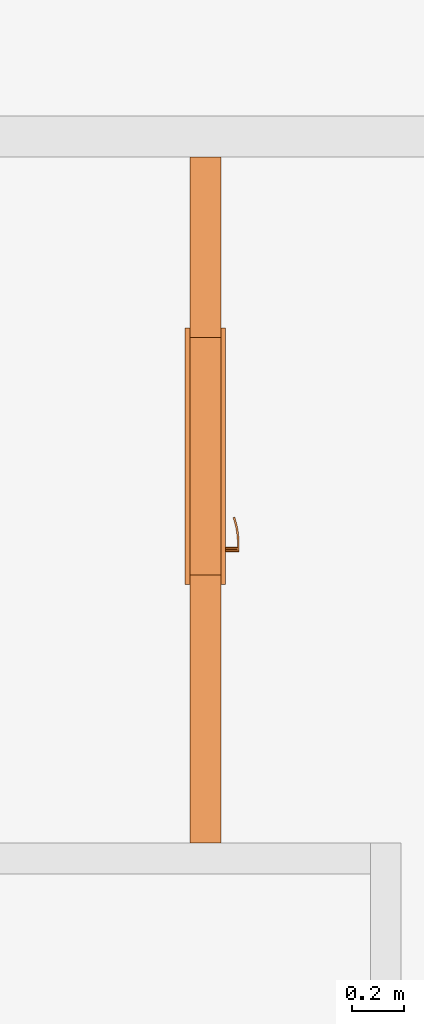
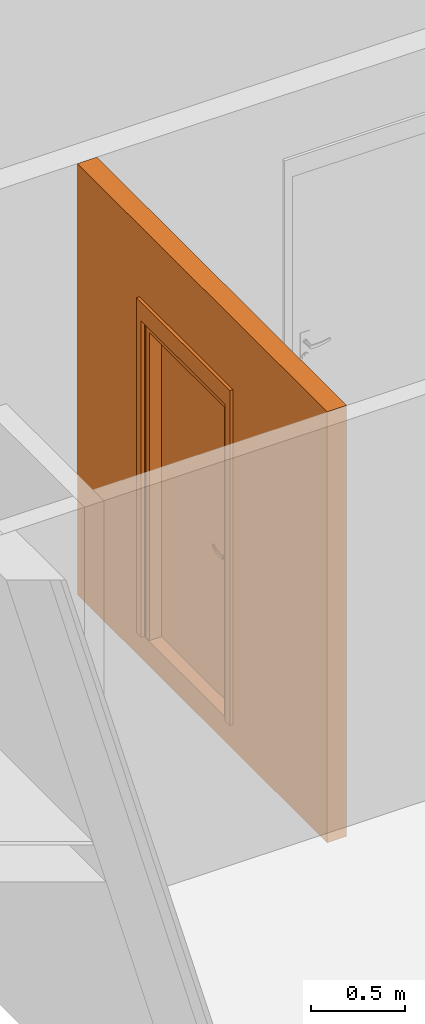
# One storey, part 31 of 67: 2 proxies, 1 opening.
"""IFC2X3 building model written with IfcOpenShell, lengths in millimetres."""

from ifc_helpers import new_model, entity, si_unit, converted_unit, derived_unit, money_unit, direction, frame, origin_with_axes, origin_2d_with_axis, place, context, subcontext, project, spatial, rectangle, extrude, open_shell, faceted_brep, surface_model, source, transform, mapped, material, type_object, element, fill, save


model = new_model("IFC2X3")

# Units and contexts
model_context = context("Model", 3, precision=0.01, world=origin_with_axes(), true_north=direction((0.34421633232, 0.938890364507)))
body_context = subcontext(model_context, "Body", "Model", "MODEL_VIEW")
ifc_project = project(units=[si_unit("LENGTHUNIT", "METRE", prefix="MILLI"), si_unit("AREAUNIT", "SQUARE_METRE"), si_unit("VOLUMEUNIT", "CUBIC_METRE"), converted_unit("PLANEANGLEUNIT", "DEGREE", entity("IfcPlaneAngleMeasure", 0.0174532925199), si_unit("PLANEANGLEUNIT", "RADIAN"), dimensions=[0, 0, 0, 0, 0, 0, 0]), si_unit("SOLIDANGLEUNIT", "STERADIAN"), money_unit("USD"), converted_unit("TIMEUNIT", "Year", entity("IfcTimeMeasure", 31556926.0), si_unit("TIMEUNIT", "SECOND"), dimensions=[0, 0, 1, 0, 0, 0, 0]), si_unit("MASSUNIT", "GRAM", prefix="KILO"), si_unit("THERMODYNAMICTEMPERATUREUNIT", "DEGREE_CELSIUS"), si_unit("LUMINOUSINTENSITYUNIT", "LUMEN"), si_unit("ENERGYUNIT", "JOULE", prefix="MEGA"), derived_unit("THERMALCONDUCTANCEUNIT", [(si_unit("POWERUNIT", "WATT"), 1), (si_unit("LENGTHUNIT", "METRE"), -1), (si_unit("THERMODYNAMICTEMPERATUREUNIT", "KELVIN"), -1)]), derived_unit("SPECIFICHEATCAPACITYUNIT", [(si_unit("ENERGYUNIT", "JOULE"), 1), (si_unit("MASSUNIT", "GRAM", prefix="KILO"), -1), (si_unit("THERMODYNAMICTEMPERATUREUNIT", "KELVIN"), -1)]), derived_unit("MASSDENSITYUNIT", [(si_unit("MASSUNIT", "GRAM", prefix="KILO"), 1), (si_unit("VOLUMEUNIT", "CUBIC_METRE"), -1)])], contexts=[model_context])

# Site, building, storey
site_placement = place(None, origin_with_axes())
site = spatial("IfcSite", under=ifc_project, at=site_placement, Name="USTRONIE MORSKIE", CompositionType="ELEMENT")
building_placement = place(site_placement, origin_with_axes())
building = spatial("IfcBuilding", under=site, at=building_placement, Name="Budynek", CompositionType="ELEMENT")
storey_placement = place(building_placement, frame((0.0, 0.0, 4000.0), z_axis=(0.0, 0.0, 1.0), x_axis=(1.0, 0.0, 0.0)))
storey = spatial("IfcBuildingStorey", under=building, at=storey_placement, Name="PIĘTRO 1", CompositionType="ELEMENT", Elevation=4000.0)

# Proxies, opening
ifc_material = material(Name="Bloczki silikatowe")
building_element_proxy_type_1 = type_object("IfcBuildingElementProxyType", Name="Bloczki silikatowe 120", PredefinedType="NOTDEFINED")
proxy_1_placement = place(storey_placement, frame((398537.940089, 731891.199132, -160.0), z_axis=(0.0, 0.0, 1.0), x_axis=(0.0, 1.0, 0.0)))
proxy_1 = element("IfcBuildingElementProxy", 1, at=proxy_1_placement, inside=storey, type_object=building_element_proxy_type_1, material=ifc_material, Name="SW-04", context=body_context, shape_type="Brep", body=[
    faceted_brep([(2780.00298174, -60.0, 2800.0), (2780.00301893, 60.0, 2800.0), (120.0, 60.0, 2800.0), (120.0, -60.0, 2800.0), (2780.00298174, -60.0, 0.0), (2780.00301893, 60.0, 0.0), (120.0, 60.0, 0.0), (120.0, -60.0, 0.0)], [[[0, 1, 2, 3]], [[1, 0, 4, 5]], [[1, 5, 6, 2]], [[7, 3, 2, 6]], [[4, 0, 3, 7]], [[5, 4, 7, 6]]]),
])
opening_placement = place(proxy_1_placement, frame((1619.96669926, 0.0, 160.0), z_axis=(0.0, 0.0, 1.0), x_axis=(1.0, 0.0, 0.0)))
opening = element("IfcOpeningElement", 2, at=opening_placement, cuts=proxy_1, Name="Dw.4", context=body_context, shape_type="SweptSolid", body=[
    extrude(rectangle(XDim=920.0, YDim=2070.0, at=origin_2d_with_axis()), frame((0.0, 120.0, 1035.0), z_axis=(0.0, 1.0, 0.0), x_axis=(1.0, 0.0, 0.0)), (0.0, 0.0, -1.0), 360.0),
    extrude(rectangle(XDim=994.0, YDim=2177.0, at=origin_2d_with_axis()), frame((0.0, 60.0, 1088.5), z_axis=(0.0, 1.0, 0.0), x_axis=(1.0, 0.0, 0.0)), (0.0, 0.0, 1.0), 120.0),
    extrude(rectangle(XDim=994.0, YDim=2177.0, at=origin_2d_with_axis()), frame((0.0, -60.0, 1088.5), z_axis=(0.0, -1.0, 0.0), x_axis=(1.0, 0.0, 0.0)), (0.0, 0.0, 1.0), 120.0),
])
building_element_proxy_type_2 = type_object("IfcBuildingElementProxyType", Name="Drzwi 23", PredefinedType="NOTDEFINED")
shared_shape = source(origin_with_axes(), body_context, "Body", "SurfaceModel", [
    faceted_brep([(460.0, -115.0, 0.0), (460.0, -120.0, 0.0), (435.0, -120.0, 0.0), (435.0, -115.0, 0.0), (460.0, -115.0, 2070.0), (460.0, -120.0, 2070.0), (435.0, -120.0, 2045.0), (435.0, -115.0, 2045.0)], [[[0, 1, 2, 3]], [[4, 5, 1, 0]], [[1, 5, 6, 2]], [[3, 2, 6, 7]], [[0, 3, 7, 4]], [[7, 6, 5, 4]]]),
    faceted_brep([(-460.0, -115.0, 2070.0), (-460.0, -120.0, 2070.0), (-435.0, -120.0, 2045.0), (-435.0, -115.0, 2045.0), (-460.0, -115.0, 0.0), (-460.0, -120.0, 0.0), (-435.0, -120.0, 0.0), (-435.0, -115.0, 0.0)], [[[0, 1, 2, 3]], [[4, 5, 1, 0]], [[1, 5, 6, 2]], [[3, 2, 6, 7]], [[0, 3, 7, 4]], [[7, 6, 5, 4]]]),
    faceted_brep([(435.0, -115.0, 2045.0), (435.0, -120.0, 2045.0), (-435.0, -120.0, 2045.0), (-435.0, -115.0, 2045.0), (460.0, -115.0, 2070.0), (460.0, -120.0, 2070.0), (-460.0, -120.0, 2070.0), (-460.0, -115.0, 2070.0)], [[[0, 1, 2, 3]], [[4, 5, 1, 0]], [[1, 5, 6, 2]], [[3, 2, 6, 7]], [[0, 3, 7, 4]], [[7, 6, 5, 4]]]),
    faceted_brep([(497.0, -139.0, 0.0), (447.0, -139.0, 0.0), (447.0, -120.0, 0.0), (497.0, -120.0, 0.0), (497.0, -139.0, 2177.0), (447.0, -139.0, 2057.0), (447.0, -120.0, 2057.0), (497.0, -120.0, 2177.0)], [[[0, 1, 2, 3]], [[0, 4, 5, 1]], [[1, 5, 6, 2]], [[3, 2, 6, 7]], [[4, 0, 3, 7]], [[5, 4, 7, 6]]]),
    faceted_brep([(-497.0, -139.0, 2177.0), (-447.0, -139.0, 2057.0), (-447.0, -120.0, 2057.0), (-497.0, -120.0, 2177.0), (-497.0, -139.0, 0.0), (-447.0, -139.0, 0.0), (-447.0, -120.0, 0.0), (-497.0, -120.0, 0.0)], [[[0, 1, 2, 3]], [[0, 4, 5, 1]], [[1, 5, 6, 2]], [[3, 2, 6, 7]], [[4, 0, 3, 7]], [[5, 4, 7, 6]]]),
    faceted_brep([(497.0, -139.0, 2177.0), (447.0, -139.0, 2057.0), (447.0, -120.0, 2057.0), (497.0, -120.0, 2177.0), (-497.0, -139.0, 2177.0), (-447.0, -139.0, 2057.0), (-447.0, -120.0, 2057.0), (-497.0, -120.0, 2177.0)], [[[0, 1, 2, 3]], [[0, 4, 5, 1]], [[1, 5, 6, 2]], [[3, 2, 6, 7]], [[4, 0, 3, 7]], [[5, 4, 7, 6]]]),
    faceted_brep([(497.0, 19.0, 0.0), (497.0, 0.0, 0.0), (447.0, 0.0, 0.0), (447.0, 19.0, 0.0), (497.0, 19.0, 2177.0), (497.0, 0.0, 2177.0), (447.0, 0.0, 2057.0), (447.0, 19.0, 2057.0)], [[[0, 1, 2, 3]], [[4, 5, 1, 0]], [[1, 5, 6, 2]], [[3, 2, 6, 7]], [[0, 3, 7, 4]], [[7, 6, 5, 4]]]),
    faceted_brep([(-497.0, 19.0, 2177.0), (-497.0, 0.0, 2177.0), (-447.0, 0.0, 2057.0), (-447.0, 19.0, 2057.0), (-497.0, 19.0, 0.0), (-497.0, 0.0, 0.0), (-447.0, 0.0, 0.0), (-447.0, 19.0, 0.0)], [[[0, 1, 2, 3]], [[4, 5, 1, 0]], [[1, 5, 6, 2]], [[3, 2, 6, 7]], [[0, 3, 7, 4]], [[7, 6, 5, 4]]]),
    faceted_brep([(497.0, 19.0, 2177.0), (497.0, 0.0, 2177.0), (447.0, 0.0, 2057.0), (447.0, 19.0, 2057.0), (-497.0, 19.0, 2177.0), (-497.0, 0.0, 2177.0), (-447.0, 0.0, 2057.0), (-447.0, 19.0, 2057.0)], [[[0, 1, 2, 3]], [[4, 5, 1, 0]], [[1, 5, 6, 2]], [[3, 2, 6, 7]], [[0, 3, 7, 4]], [[7, 6, 5, 4]]]),
    faceted_brep([(400.0, -40.0, 0.0), (400.0, -115.0, 0.0), (400.0, -115.0, 2000.0), (400.0, -40.0, 2000.0), (412.0, -40.0, 0.0), (412.0, 0.0, 0.0), (460.0, 0.0, 0.0), (460.0, -115.0, 0.0), (460.0, -115.0, 2000.0), (412.0, -40.0, 2000.0), (460.0, 0.0, 2000.0), (412.0, 0.0, 2000.0)], [[[0, 1, 2, 3]], [[4, 5, 6, 7, 1, 0]], [[1, 7, 8, 2]], [[9, 3, 2, 8, 10, 11]], [[9, 4, 0, 3]], [[11, 5, 4, 9]], [[11, 10, 6, 5]], [[6, 10, 8, 7]]]),
    faceted_brep([(-412.0, -40.0, 2000.0), (-412.0, 0.0, 2000.0), (-460.0, 0.0, 2000.0), (-460.0, -115.0, 2000.0), (-400.0, -115.0, 2000.0), (-400.0, -40.0, 2000.0), (-412.0, -40.0, 0.0), (-412.0, 0.0, 0.0), (-460.0, 0.0, 0.0), (-460.0, -115.0, 0.0), (-400.0, -115.0, 0.0), (-400.0, -40.0, 0.0)], [[[0, 1, 2, 3, 4, 5]], [[0, 6, 7, 1]], [[7, 8, 2, 1]], [[2, 8, 9, 3]], [[3, 9, 10, 4]], [[5, 4, 10, 11]], [[5, 11, 6, 0]], [[6, 11, 10, 9, 8, 7]]]),
    faceted_brep([(412.0, 0.0, 2012.0), (-412.0, 0.0, 2012.0), (-412.0, 0.0, 2000.0), (-460.0, 0.0, 2000.0), (-460.0, 0.0, 2070.0), (460.0, 0.0, 2070.0), (460.0, 0.0, 2000.0), (412.0, 0.0, 2000.0), (412.0, -40.0, 2012.0), (-412.0, -40.0, 2012.0), (-412.0, -40.0, 2000.0), (-400.0, -40.0, 2000.0), (-400.0, -115.0, 2000.0), (-460.0, -115.0, 2000.0), (-460.0, -115.0, 2070.0), (460.0, -115.0, 2070.0), (460.0, -115.0, 2000.0), (412.0, -40.0, 2000.0), (400.0, -115.0, 2000.0), (400.0, -40.0, 2000.0)], [[[0, 1, 2, 3, 4, 5, 6, 7]], [[0, 8, 9, 1]], [[1, 9, 10, 2]], [[10, 11, 12, 13, 3, 2]], [[4, 3, 13, 14]], [[5, 4, 14, 15]], [[6, 5, 15, 16]], [[17, 7, 6, 16, 18, 19]], [[7, 17, 8, 0]], [[10, 9, 8, 17, 19, 11]], [[19, 18, 12, 11]], [[12, 18, 16, 15, 14, 13]]]),
    faceted_brep([(390.5, -40.0, 1060.0), (333.5, -40.0, 1060.0), (333.5, -43.0, 1060.0), (390.5, -43.0, 1060.0), (390.5, -40.0, 870.0), (333.5, -40.0, 870.0), (333.5, -43.0, 870.0), (390.5, -43.0, 870.0)], [[[0, 1, 2, 3]], [[0, 4, 5, 1]], [[1, 5, 6, 2]], [[3, 2, 6, 7]], [[4, 0, 3, 7]], [[5, 4, 7, 6]]]),
    faceted_brep([(362.0, -104.0, 990.0), (367.0, -104.0, 991.339745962), (367.0, -111.0, 991.339745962), (362.0, -111.0, 990.0), (337.0, -104.0, 990.0), (337.0, -104.0, 1010.0), (362.0, -104.0, 1010.0), (367.0, -104.0, 1008.66025404), (370.660254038, -104.0, 1005.0), (372.0, -104.0, 1000.0), (370.660254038, -104.0, 995.0), (370.660254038, -111.0, 995.0), (372.0, -111.0, 1000.0), (370.660254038, -111.0, 1005.0), (367.0, -111.0, 1008.66025404), (362.0, -111.0, 1010.0), (337.0, -111.0, 1010.0), (337.0, -111.0, 990.0)], [[[0, 1, 2, 3]], [[0, 4, 5, 6, 7, 8, 9, 10, 1]], [[1, 10, 11, 2]], [[3, 2, 11, 12, 13, 14, 15, 16, 17]], [[4, 0, 3, 17]], [[5, 4, 17, 16]], [[6, 5, 16, 15]], [[7, 6, 15, 14]], [[8, 7, 14, 13]], [[9, 8, 13, 12]], [[10, 9, 12, 11]]]),
    surface_model("IfcShellBasedSurfaceModel", [(337.0, -104.0, 1010.0), (323.901717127, -104.0, 1009.60730092), (323.596090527, -111.0, 1009.60730092), (337.0, -104.0, 990.0), (323.901717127, -104.0, 990.392699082), (296.890283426, -108.663544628, 1008.82190275), (337.0, -111.0, 1010.0), (337.0, -111.0, 990.0), (297.804837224, -101.716818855, 991.178097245), (297.804837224, -101.716818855, 1008.82190275), (296.890283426, -108.663544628, 991.178097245), (323.596090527, -111.0, 990.392699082), (272.006256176, -97.1678329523, 991.963495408), (272.006256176, -97.1678329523, 1008.03650459), (270.489735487, -104.008415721, 1008.03650459), (270.489735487, -104.008415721, 991.963495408), (246.702316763, -90.3876628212, 992.748893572), (246.702316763, -90.3876628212, 1007.25110643), (244.59537082, -97.0700416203, 1007.25110643), (244.59537082, -97.0700416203, 992.748893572), (238.829442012, -87.5221707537, 993.0), (238.829442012, -87.5221707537, 1007.0), (236.538795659, -94.1376880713, 1007.0), (236.538795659, -94.1376880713, 993.0)], [open_shell([[[0, 1, 2]], [[0, 3, 4, 1]], [[1, 5, 2]], [[0, 2, 6]], [[4, 3, 7]], [[1, 4, 8, 9]], [[1, 9, 5]], [[2, 5, 10, 11]], [[6, 2, 11, 7]], [[4, 7, 11]], [[8, 4, 11]], [[9, 8, 12, 13]], [[9, 14, 5]], [[5, 14, 15, 10]], [[8, 11, 10]], [[12, 8, 10]], [[13, 12, 16, 17]], [[9, 13, 14]], [[14, 18, 19, 15]], [[12, 10, 15]], [[16, 12, 15]], [[17, 16, 20, 21]], [[13, 17, 18]], [[13, 18, 14]], [[18, 22, 23, 19]], [[16, 15, 19]], [[20, 16, 19]], [[21, 20, 23, 22]], [[17, 21, 22]], [[17, 22, 18]], [[20, 19, 23]]])]),
    faceted_brep([(351.607695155, -53.0, 994.0), (350.0, -53.0, 1000.0), (349.0, -43.0, 1000.0), (350.741669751, -43.0, 993.5), (356.0, -53.0, 989.607695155), (362.0, -53.0, 988.0), (368.0, -53.0, 989.607695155), (372.392304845, -53.0, 994.0), (374.0, -53.0, 1000.0), (372.392304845, -53.0, 1006.0), (368.0, -53.0, 1010.39230485), (362.0, -53.0, 1012.0), (356.0, -53.0, 1010.39230485), (351.607695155, -53.0, 1006.0), (350.741669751, -43.0, 1006.5), (355.5, -43.0, 1011.25833025), (362.0, -43.0, 1013.0), (368.5, -43.0, 1011.25833025), (373.258330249, -43.0, 1006.5), (375.0, -43.0, 1000.0), (373.258330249, -43.0, 993.5), (368.5, -43.0, 988.741669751), (362.0, -43.0, 987.0), (355.5, -43.0, 988.741669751)], [[[0, 1, 2, 3]], [[1, 0, 4, 5, 6, 7, 8, 9, 10, 11, 12, 13]], [[1, 13, 14, 2]], [[2, 14, 15, 16, 17, 18, 19, 20, 21, 22, 23, 3]], [[4, 0, 3, 23]], [[5, 4, 23, 22]], [[6, 5, 22, 21]], [[7, 6, 21, 20]], [[8, 7, 20, 19]], [[9, 8, 19, 18]], [[10, 9, 18, 17]], [[11, 10, 17, 16]], [[12, 11, 16, 15]], [[13, 12, 15, 14]]]),
    faceted_brep([(344.679491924, -47.0, 895.0), (342.0, -47.0, 905.0), (340.0, -43.0, 905.0), (342.947441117, -43.0, 894.0), (352.0, -47.0, 887.679491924), (362.0, -47.0, 885.0), (372.0, -47.0, 887.679491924), (379.320508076, -47.0, 895.0), (382.0, -47.0, 905.0), (379.320508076, -47.0, 915.0), (372.0, -47.0, 922.320508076), (362.0, -47.0, 925.0), (352.0, -47.0, 922.320508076), (344.679491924, -47.0, 915.0), (342.947441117, -43.0, 916.0), (351.0, -43.0, 924.052558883), (362.0, -43.0, 927.0), (373.0, -43.0, 924.052558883), (381.052558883, -43.0, 916.0), (384.0, -43.0, 905.0), (381.052558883, -43.0, 894.0), (373.0, -43.0, 885.947441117), (362.0, -43.0, 883.0), (351.0, -43.0, 885.947441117)], [[[0, 1, 2, 3]], [[1, 0, 4, 5, 6, 7, 8, 9, 10, 11, 12, 13]], [[1, 13, 14, 2]], [[2, 14, 15, 16, 17, 18, 19, 20, 21, 22, 23, 3]], [[4, 0, 3, 23]], [[5, 4, 23, 22]], [[6, 5, 22, 21]], [[7, 6, 21, 20]], [[8, 7, 20, 19]], [[9, 8, 19, 18]], [[10, 9, 18, 17]], [[11, 10, 17, 16]], [[12, 11, 16, 15]], [[13, 12, 15, 14]]]),
    faceted_brep([(357.050252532, -49.0, 909.050252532), (355.0, -49.0, 914.0), (354.0, -47.0, 914.0), (356.343145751, -47.0, 908.343145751), (362.0, -49.0, 907.0), (366.949747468, -49.0, 909.050252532), (369.0, -49.0, 914.0), (366.949747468, -49.0, 918.949747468), (362.0, -49.0, 921.0), (357.050252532, -49.0, 918.949747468), (356.343145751, -47.0, 919.656854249), (362.0, -47.0, 922.0), (367.656854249, -47.0, 919.656854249), (370.0, -47.0, 914.0), (367.656854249, -47.0, 908.343145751), (362.0, -47.0, 906.0)], [[[0, 1, 2, 3]], [[1, 0, 4, 5, 6, 7, 8, 9]], [[1, 9, 10, 2]], [[2, 10, 11, 12, 13, 14, 15, 3]], [[4, 0, 3, 15]], [[5, 4, 15, 14]], [[6, 5, 14, 13]], [[7, 6, 13, 12]], [[8, 7, 12, 11]], [[9, 8, 11, 10]]]),
    faceted_brep([(362.0, -53.0, 1010.0), (357.0, -53.0, 1008.66025404), (357.0, -104.0, 1008.66025404), (362.0, -104.0, 1010.0), (367.0, -53.0, 1008.66025404), (370.660254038, -53.0, 1005.0), (372.0, -53.0, 1000.0), (370.660254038, -53.0, 995.0), (367.0, -53.0, 991.339745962), (362.0, -53.0, 990.0), (357.0, -53.0, 991.339745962), (353.339745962, -53.0, 995.0), (352.0, -53.0, 1000.0), (353.339745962, -53.0, 1005.0), (353.339745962, -104.0, 1005.0), (352.0, -104.0, 1000.0), (353.339745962, -104.0, 995.0), (357.0, -104.0, 991.339745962), (362.0, -104.0, 990.0), (367.0, -104.0, 991.339745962), (370.660254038, -104.0, 995.0), (372.0, -104.0, 1000.0), (370.660254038, -104.0, 1005.0), (367.0, -104.0, 1008.66025404)], [[[0, 1, 2, 3]], [[0, 4, 5, 6, 7, 8, 9, 10, 11, 12, 13, 1]], [[1, 13, 14, 2]], [[3, 2, 14, 15, 16, 17, 18, 19, 20, 21, 22, 23]], [[4, 0, 3, 23]], [[5, 4, 23, 22]], [[6, 5, 22, 21]], [[7, 6, 21, 20]], [[8, 7, 20, 19]], [[9, 8, 19, 18]], [[10, 9, 18, 17]], [[11, 10, 17, 16]], [[12, 11, 16, 15]], [[13, 12, 15, 14]]]),
    faceted_brep([(390.5, 0.0, 1060.0), (390.5, 3.0, 1060.0), (333.5, 3.0, 1060.0), (333.5, 0.0, 1060.0), (390.5, 0.0, 870.0), (390.5, 3.0, 870.0), (333.5, 3.0, 870.0), (333.5, 0.0, 870.0)], [[[0, 1, 2, 3]], [[4, 5, 1, 0]], [[1, 5, 6, 2]], [[3, 2, 6, 7]], [[0, 3, 7, 4]], [[7, 6, 5, 4]]]),
    faceted_brep([(362.0, 64.0, 990.0), (362.0, 71.0, 990.0), (367.0, 71.0, 991.339745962), (367.0, 64.0, 991.339745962), (337.0, 64.0, 990.0), (337.0, 71.0, 990.0), (337.0, 71.0, 1010.0), (362.0, 71.0, 1010.0), (367.0, 71.0, 1008.66025404), (370.660254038, 71.0, 1005.0), (372.0, 71.0, 1000.0), (370.660254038, 71.0, 995.0), (370.660254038, 64.0, 995.0), (372.0, 64.0, 1000.0), (370.660254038, 64.0, 1005.0), (367.0, 64.0, 1008.66025404), (362.0, 64.0, 1010.0), (337.0, 64.0, 1010.0)], [[[0, 1, 2, 3]], [[4, 5, 1, 0]], [[1, 5, 6, 7, 8, 9, 10, 11, 2]], [[3, 2, 11, 12]], [[0, 3, 12, 13, 14, 15, 16, 17, 4]], [[17, 6, 5, 4]], [[16, 7, 6, 17]], [[15, 8, 7, 16]], [[14, 9, 8, 15]], [[13, 10, 9, 14]], [[12, 11, 10, 13]]]),
    surface_model("IfcShellBasedSurfaceModel", [(337.0, 64.0, 1010.0), (323.596090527, 71.0, 1009.60730092), (323.901717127, 64.0, 1009.60730092), (337.0, 71.0, 1010.0), (296.890283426, 68.6635446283, 1008.82190275), (323.901717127, 64.0, 990.392699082), (337.0, 64.0, 990.0), (337.0, 71.0, 990.0), (323.596090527, 71.0, 990.392699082), (296.890283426, 68.6635446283, 991.178097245), (297.804837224, 61.716818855, 1008.82190275), (297.804837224, 61.716818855, 991.178097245), (270.489735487, 64.0084157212, 991.963495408), (270.489735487, 64.0084157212, 1008.03650459), (272.006256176, 57.1678329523, 1008.03650459), (272.006256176, 57.1678329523, 991.963495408), (244.59537082, 57.0700416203, 992.748893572), (244.59537082, 57.0700416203, 1007.25110643), (246.702316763, 50.3876628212, 1007.25110643), (246.702316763, 50.3876628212, 992.748893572), (236.538795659, 54.1376880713, 993.0), (236.538795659, 54.1376880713, 1007.0), (238.829442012, 47.5221707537, 1007.0), (238.829442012, 47.5221707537, 993.0)], [open_shell([[[0, 1, 2]], [[0, 3, 1]], [[2, 1, 4]], [[0, 2, 5, 6]], [[3, 7, 8, 1]], [[1, 8, 9, 4]], [[2, 4, 10]], [[2, 10, 11, 5]], [[5, 7, 6]], [[5, 8, 7]], [[11, 9, 8]], [[4, 9, 12, 13]], [[10, 4, 13]], [[10, 14, 15, 11]], [[11, 8, 5]], [[15, 9, 11]], [[15, 12, 9]], [[13, 12, 16, 17]], [[10, 13, 14]], [[14, 18, 19, 15]], [[19, 12, 15]], [[19, 16, 12]], [[17, 16, 20, 21]], [[14, 13, 17]], [[14, 17, 18]], [[18, 22, 23, 19]], [[23, 16, 19]], [[23, 20, 16]], [[22, 21, 20, 23]], [[18, 17, 21]], [[18, 21, 22]]])]),
    faceted_brep([(351.607695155, 13.0, 994.0), (350.741669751, 3.0, 993.5), (349.0, 3.0, 1000.0), (350.0, 13.0, 1000.0), (356.0, 13.0, 989.607695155), (355.5, 3.0, 988.741669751), (362.0, 3.0, 987.0), (368.5, 3.0, 988.741669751), (373.258330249, 3.0, 993.5), (375.0, 3.0, 1000.0), (373.258330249, 3.0, 1006.5), (368.5, 3.0, 1011.25833025), (362.0, 3.0, 1013.0), (355.5, 3.0, 1011.25833025), (350.741669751, 3.0, 1006.5), (351.607695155, 13.0, 1006.0), (356.0, 13.0, 1010.39230485), (362.0, 13.0, 1012.0), (368.0, 13.0, 1010.39230485), (372.392304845, 13.0, 1006.0), (374.0, 13.0, 1000.0), (372.392304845, 13.0, 994.0), (368.0, 13.0, 989.607695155), (362.0, 13.0, 988.0)], [[[0, 1, 2, 3]], [[4, 5, 1, 0]], [[2, 1, 5, 6, 7, 8, 9, 10, 11, 12, 13, 14]], [[3, 2, 14, 15]], [[3, 15, 16, 17, 18, 19, 20, 21, 22, 23, 4, 0]], [[23, 6, 5, 4]], [[22, 7, 6, 23]], [[21, 8, 7, 22]], [[20, 9, 8, 21]], [[19, 10, 9, 20]], [[18, 11, 10, 19]], [[17, 12, 11, 18]], [[16, 13, 12, 17]], [[15, 14, 13, 16]]]),
    faceted_brep([(344.679491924, 7.0, 895.0), (342.947441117, 3.0, 894.0), (340.0, 3.0, 905.0), (342.0, 7.0, 905.0), (352.0, 7.0, 887.679491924), (351.0, 3.0, 885.947441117), (362.0, 3.0, 883.0), (373.0, 3.0, 885.947441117), (381.052558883, 3.0, 894.0), (384.0, 3.0, 905.0), (381.052558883, 3.0, 916.0), (373.0, 3.0, 924.052558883), (362.0, 3.0, 927.0), (351.0, 3.0, 924.052558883), (342.947441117, 3.0, 916.0), (344.679491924, 7.0, 915.0), (352.0, 7.0, 922.320508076), (362.0, 7.0, 925.0), (372.0, 7.0, 922.320508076), (379.320508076, 7.0, 915.0), (382.0, 7.0, 905.0), (379.320508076, 7.0, 895.0), (372.0, 7.0, 887.679491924), (362.0, 7.0, 885.0)], [[[0, 1, 2, 3]], [[4, 5, 1, 0]], [[2, 1, 5, 6, 7, 8, 9, 10, 11, 12, 13, 14]], [[3, 2, 14, 15]], [[3, 15, 16, 17, 18, 19, 20, 21, 22, 23, 4, 0]], [[23, 6, 5, 4]], [[22, 7, 6, 23]], [[21, 8, 7, 22]], [[20, 9, 8, 21]], [[19, 10, 9, 20]], [[18, 11, 10, 19]], [[17, 12, 11, 18]], [[16, 13, 12, 17]], [[15, 14, 13, 16]]]),
    faceted_brep([(357.050252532, 9.0, 909.050252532), (356.343145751, 7.0, 908.343145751), (354.0, 7.0, 914.0), (355.0, 9.0, 914.0), (362.0, 9.0, 907.0), (362.0, 7.0, 906.0), (367.656854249, 7.0, 908.343145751), (370.0, 7.0, 914.0), (367.656854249, 7.0, 919.656854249), (362.0, 7.0, 922.0), (356.343145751, 7.0, 919.656854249), (357.050252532, 9.0, 918.949747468), (362.0, 9.0, 921.0), (366.949747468, 9.0, 918.949747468), (369.0, 9.0, 914.0), (366.949747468, 9.0, 909.050252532)], [[[0, 1, 2, 3]], [[4, 5, 1, 0]], [[2, 1, 5, 6, 7, 8, 9, 10]], [[3, 2, 10, 11]], [[3, 11, 12, 13, 14, 15, 4, 0]], [[15, 6, 5, 4]], [[14, 7, 6, 15]], [[13, 8, 7, 14]], [[12, 9, 8, 13]], [[11, 10, 9, 12]]]),
    faceted_brep([(362.0, 13.0, 1010.0), (362.0, 64.0, 1010.0), (357.0, 64.0, 1008.66025404), (357.0, 13.0, 1008.66025404), (367.0, 13.0, 1008.66025404), (367.0, 64.0, 1008.66025404), (370.660254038, 64.0, 1005.0), (372.0, 64.0, 1000.0), (370.660254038, 64.0, 995.0), (367.0, 64.0, 991.339745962), (362.0, 64.0, 990.0), (357.0, 64.0, 991.339745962), (353.339745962, 64.0, 995.0), (352.0, 64.0, 1000.0), (353.339745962, 64.0, 1005.0), (353.339745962, 13.0, 1005.0), (352.0, 13.0, 1000.0), (353.339745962, 13.0, 995.0), (357.0, 13.0, 991.339745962), (362.0, 13.0, 990.0), (367.0, 13.0, 991.339745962), (370.660254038, 13.0, 995.0), (372.0, 13.0, 1000.0), (370.660254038, 13.0, 1005.0)], [[[0, 1, 2, 3]], [[4, 5, 1, 0]], [[1, 5, 6, 7, 8, 9, 10, 11, 12, 13, 14, 2]], [[3, 2, 14, 15]], [[0, 3, 15, 16, 17, 18, 19, 20, 21, 22, 23, 4]], [[23, 6, 5, 4]], [[22, 7, 6, 23]], [[21, 8, 7, 22]], [[20, 9, 8, 21]], [[19, 10, 9, 20]], [[18, 11, 10, 19]], [[17, 12, 11, 18]], [[16, 13, 12, 17]], [[15, 14, 13, 16]]]),
    faceted_brep([(-412.0, 0.0, 0.0), (412.0, 0.0, 0.0), (412.0, -40.0, 0.0), (-412.0, -40.0, 0.0), (-412.0, 0.0, 2012.0), (412.0, 0.0, 2012.0), (412.0, -40.0, 2012.0), (-412.0, -40.0, 2012.0)], [[[0, 1, 2, 3]], [[0, 4, 5, 1]], [[1, 5, 6, 2]], [[3, 2, 6, 7]], [[4, 0, 3, 7]], [[5, 4, 7, 6]]]),
])
proxy_2_placement = place(opening_placement, frame((400.0, 0.0, 0.0), z_axis=(0.0, 0.0, 1.0), x_axis=(-1.0, 0.0, 0.0)))
proxy_2 = element("IfcBuildingElementProxy", 3, at=proxy_2_placement, inside=storey, type_object=building_element_proxy_type_2, Name="Dw.4", context=body_context, shape_type="MappedRepresentation", body=[
    mapped(shared_shape, transform((400.0, 60.0, 0.0))),
])
fill(opening, proxy_2)

save(model, "model.ifc")
